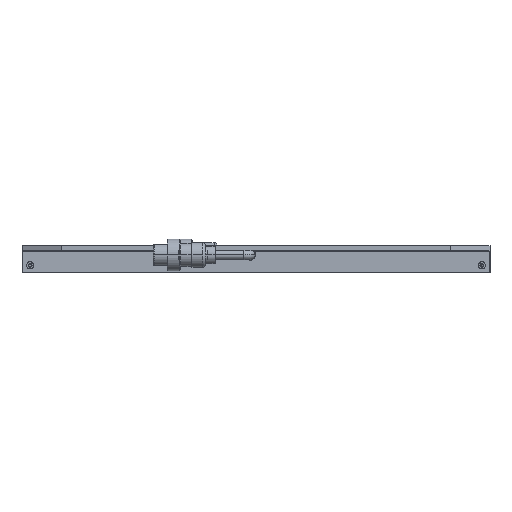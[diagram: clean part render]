
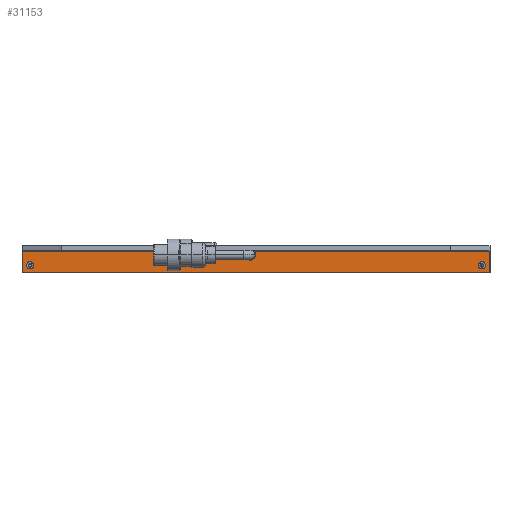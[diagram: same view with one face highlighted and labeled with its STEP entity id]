
A CAD part, front view. The second image highlights one B-rep face of the part: STEP entity #31153.
In plain terms, the highlighted planar face has unit normal (0, -1, 0).
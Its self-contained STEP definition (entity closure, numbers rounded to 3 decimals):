
#3506=DIRECTION('',(-1.,0.,0.));
#3507=VECTOR('',#3506,204.7);
#3508=CARTESIAN_POINT('',(-10.1,-315.,0.));
#3509=LINE('',#3508,#3507);
#3546=DIRECTION('',(-1.,0.,0.));
#3547=VECTOR('',#3546,215.3);
#3548=CARTESIAN_POINT('',(214.8,-315.,0.));
#3549=LINE('',#3548,#3547);
#7000=DIRECTION('',(0.,0.,1.));
#7001=VECTOR('',#7000,3.5);
#7002=CARTESIAN_POINT('',(-0.5,-315.,-3.5));
#7003=LINE('',#7002,#7001);
#7024=CARTESIAN_POINT('',(-207.5,-315.,-13.));
#7025=DIRECTION('',(0.,1.,0.));
#7026=DIRECTION('',(0.,0.,1.));
#7027=AXIS2_PLACEMENT_3D('',#7024,#7025,#7026);
#7029=CARTESIAN_POINT('',(-207.5,-315.,-13.));
#7030=DIRECTION('',(0.,1.,0.));
#7031=DIRECTION('',(0.,0.,-1.));
#7032=AXIS2_PLACEMENT_3D('',#7029,#7030,#7031);
#7034=CARTESIAN_POINT('',(207.5,-315.,-13.));
#7035=DIRECTION('',(0.,1.,0.));
#7036=DIRECTION('',(0.,0.,-1.));
#7037=AXIS2_PLACEMENT_3D('',#7034,#7035,#7036);
#7039=CARTESIAN_POINT('',(207.5,-315.,-13.));
#7040=DIRECTION('',(0.,1.,0.));
#7041=DIRECTION('',(0.,0.,1.));
#7042=AXIS2_PLACEMENT_3D('',#7039,#7040,#7041);
#7044=CARTESIAN_POINT('',(-5.3,-315.,-3.5));
#7045=DIRECTION('',(0.,1.,0.));
#7046=DIRECTION('',(1.,0.,0.));
#7047=AXIS2_PLACEMENT_3D('',#7044,#7045,#7046);
#7217=DIRECTION('',(0.,0.,-1.));
#7218=VECTOR('',#7217,19.8);
#7219=CARTESIAN_POINT('',(214.8,-315.,0.));
#7220=LINE('',#7219,#7218);
#7257=DIRECTION('',(-1.,0.,0.));
#7258=VECTOR('',#7257,429.6);
#7259=CARTESIAN_POINT('',(214.8,-315.,-19.8));
#7260=LINE('',#7259,#7258);
#7277=DIRECTION('',(0.,0.,1.));
#7278=VECTOR('',#7277,19.8);
#7279=CARTESIAN_POINT('',(-214.8,-315.,-19.8));
#7280=LINE('',#7279,#7278);
#8323=DIRECTION('',(0.,0.,-1.));
#8324=VECTOR('',#8323,3.5);
#8325=CARTESIAN_POINT('',(-10.1,-315.,0.));
#8326=LINE('',#8325,#8324);
#15790=CARTESIAN_POINT('',(-0.5,-315.,-3.5));
#15791=CARTESIAN_POINT('',(-10.1,-315.,-3.5));
#15792=VERTEX_POINT('',#15790);
#15793=VERTEX_POINT('',#15791);
#15794=CARTESIAN_POINT('',(214.8,-315.,-19.8));
#15795=CARTESIAN_POINT('',(-214.8,-315.,-19.8));
#15796=VERTEX_POINT('',#15794);
#15797=VERTEX_POINT('',#15795);
#15798=CARTESIAN_POINT('',(207.5,-315.,-9.75));
#15799=CARTESIAN_POINT('',(207.5,-315.,-16.25));
#15800=VERTEX_POINT('',#15798);
#15801=VERTEX_POINT('',#15799);
#15802=CARTESIAN_POINT('',(-207.5,-315.,-16.25));
#15803=CARTESIAN_POINT('',(-207.5,-315.,-9.75));
#15804=VERTEX_POINT('',#15802);
#15805=VERTEX_POINT('',#15803);
#18237=CARTESIAN_POINT('',(214.8,-315.,0.));
#18238=CARTESIAN_POINT('',(-0.5,-315.,0.));
#18239=VERTEX_POINT('',#18237);
#18240=VERTEX_POINT('',#18238);
#18241=CARTESIAN_POINT('',(-10.1,-315.,0.));
#18242=CARTESIAN_POINT('',(-214.8,-315.,0.));
#18243=VERTEX_POINT('',#18241);
#18244=VERTEX_POINT('',#18242);
#31122=CARTESIAN_POINT('',(-215.,-315.,-20.));
#31123=DIRECTION('',(0.,-1.,0.));
#31124=DIRECTION('',(0.,0.,1.));
#31125=AXIS2_PLACEMENT_3D('',#31122,#31123,#31124);
#31126=PLANE('',#31125);
#31128=ORIENTED_EDGE('',*,*,#31127,.T.);
#31130=ORIENTED_EDGE('',*,*,#31129,.T.);
#31132=ORIENTED_EDGE('',*,*,#31131,.T.);
#31133=ORIENTED_EDGE('',*,*,#24255,.F.);
#31135=ORIENTED_EDGE('',*,*,#31134,.T.);
#31136=ORIENTED_EDGE('',*,*,#31047,.F.);
#31137=ORIENTED_EDGE('',*,*,#31071,.T.);
#31138=ORIENTED_EDGE('',*,*,#24283,.F.);
#31139=EDGE_LOOP('',(#31128,#31130,#31132,#31133,#31135,#31136,#31137,#31138));
#31140=FACE_OUTER_BOUND('',#31139,.F.);
#31142=ORIENTED_EDGE('',*,*,#31141,.F.);
#31144=ORIENTED_EDGE('',*,*,#31143,.F.);
#31145=EDGE_LOOP('',(#31142,#31144));
#31146=FACE_BOUND('',#31145,.F.);
#31148=ORIENTED_EDGE('',*,*,#31147,.F.);
#31150=ORIENTED_EDGE('',*,*,#31149,.F.);
#31151=EDGE_LOOP('',(#31148,#31150));
#31152=FACE_BOUND('',#31151,.F.);
#7028=CIRCLE('',#7027,3.25);
#7033=CIRCLE('',#7032,3.25);
#7038=CIRCLE('',#7037,3.25);
#7043=CIRCLE('',#7042,3.25);
#7048=CIRCLE('',#7047,4.8);
#24255=EDGE_CURVE('',#18243,#18244,#3509,.T.);
#24283=EDGE_CURVE('',#18239,#18240,#3549,.T.);
#31047=EDGE_CURVE('',#15792,#15793,#7048,.T.);
#31071=EDGE_CURVE('',#15792,#18240,#7003,.T.);
#31127=EDGE_CURVE('',#18239,#15796,#7220,.T.);
#31129=EDGE_CURVE('',#15796,#15797,#7260,.T.);
#31131=EDGE_CURVE('',#15797,#18244,#7280,.T.);
#31134=EDGE_CURVE('',#18243,#15793,#8326,.T.);
#31141=EDGE_CURVE('',#15801,#15800,#7038,.T.);
#31143=EDGE_CURVE('',#15800,#15801,#7043,.T.);
#31147=EDGE_CURVE('',#15805,#15804,#7028,.T.);
#31149=EDGE_CURVE('',#15804,#15805,#7033,.T.);
#31153=ADVANCED_FACE('',(#31140,#31146,#31152),#31126,.T.);
